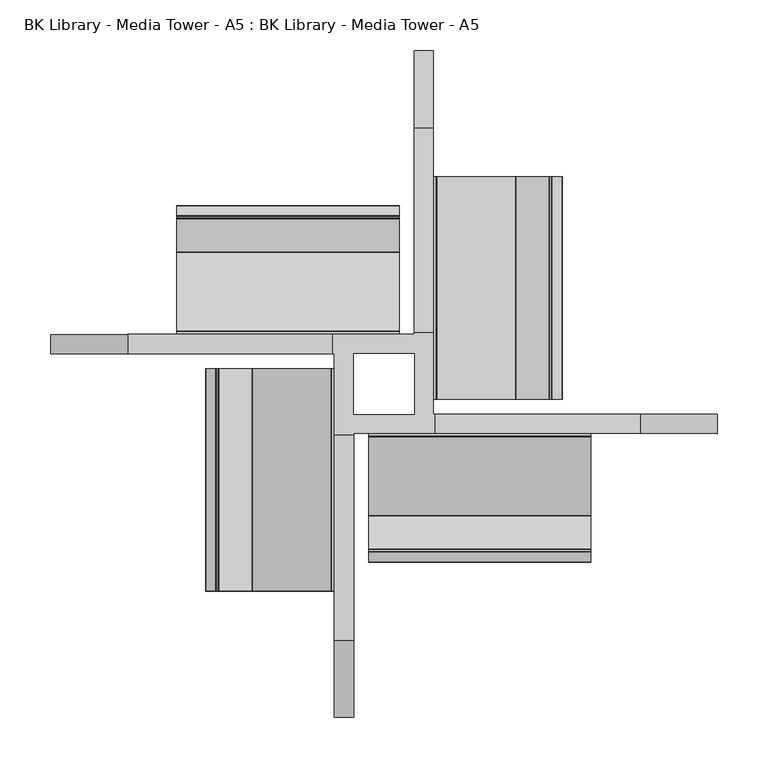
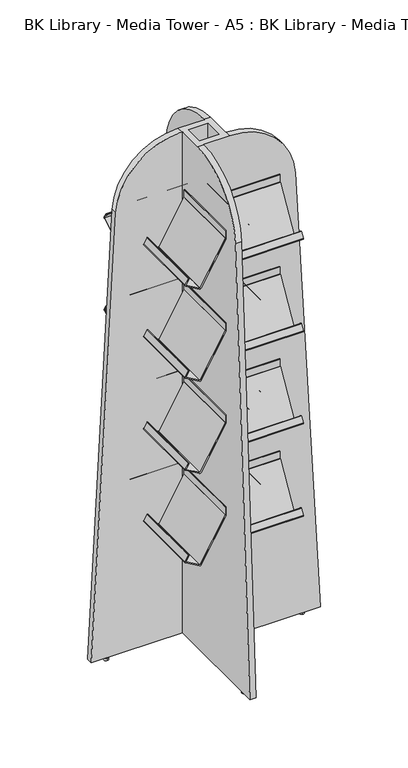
"""IFC4 building model written with IfcOpenShell, lengths in millimetres: furniture geometry, BK Library - Media Tower - A5 : BK Library - Media Tower - A5."""

from ifc_helpers import new_model, si_unit, point, frame, frame_2d, origin, place, context, project, spatial, polyline, circle_curve, trimmed, segment, composite_curve, outline, extrude, source, transform, mapped, element, save
from ifc_brep_helpers import plane_surface, cylinder_surface, advanced_brep


def bk_library_media_tower_a5_bk_library_media_tower_a5_089887bc(model_context):
    return source(origin(), model_context, "Body", "SolidModel", [
        advanced_brep(
        [(30.0, 50.6069829, 1687.4116211), (30.0, 253.7385228, 1494.7718472), (30.0, 330.0, 57.4116211), (30.0, 49.0, 57.4116211), (30.0, 49.0, 1687.4116211), (30.0, -30.0, 1687.4116211), (30.0, 30.0, 1687.4116211), (30.0, 30.0, 57.4116211), (30.0, -30.0, 57.4116211), (49.0, -30.0, 57.4116211), (49.0, 330.0, 57.4116211), (49.0, 253.7385228, 1494.7718472), (49.0, 50.6069829, 1687.4116211), (49.0, -30.0, 1687.4116211), (330.0, -30.0, 57.4116211), (330.0, -49.0, 57.4116211), (-30.0, -49.0, 57.4116211), (-30.0, -330.0, 57.4116211), (-49.0, -330.0, 57.4116211), (-49.0, 30.0, 57.4116211), (-330.0, 30.0, 57.4116211), (-330.0, 49.0, 57.4116211), (-30.0, 30.0, 57.4116211), (-30.0, -30.0, 57.4116211), (-50.6069829, 49.0, 1687.4116211), (-50.6069829, 30.0, 1687.4116211), (-49.0, 30.0, 1687.4116211), (-49.0, -50.6069829, 1687.4116211), (-30.0, -50.6069829, 1687.4116211), (-30.0, -49.0, 1687.4116211), (50.6069829, -49.0, 1687.4116211), (50.6069829, -30.0, 1687.4116211), (-30.0, -30.0, 1687.4116211), (-30.0, 30.0, 1687.4116211), (-253.7385228, 30.0, 1494.7718472), (-253.7385228, 49.0, 1494.7718472), (-30.0, -253.7385228, 1494.7718472), (-49.0, -253.7385228, 1494.7718472), (253.7385228, -30.0, 1494.7718472), (253.7385228, -49.0, 1494.7718472)],
        [
            (0, 1, circle_curve(frame((30.0, 50.6069829, 1483.994374), z_axis=(-1.0, 0.0, 0.0), x_axis=(0.0, -1.0, 0.0)), 203.4172471)),
            (1, 2),
            (2, 3),
            (3, 4),
            (4, 0),
            (5, 6),
            (6, 7),
            (7, 8),
            (8, 5),
            (9, 10),
            (10, 11),
            (11, 12, circle_curve(frame((49.0, 50.6069829, 1483.994374), z_axis=(1.0, 0.0, 0.0), x_axis=(0.0, -1.0, 0.0)), 203.4172471)),
            (12, 13),
            (13, 9),
            (9, 14),
            (14, 15),
            (15, 16),
            (16, 17),
            (17, 18),
            (18, 19),
            (19, 20),
            (20, 21),
            (21, 3),
            (2, 10),
            (22, 23),
            (23, 8),
            (7, 22),
            (12, 0),
            (4, 24),
            (24, 25),
            (25, 26),
            (26, 27),
            (27, 28),
            (28, 29),
            (29, 30),
            (30, 31),
            (31, 13),
            (5, 32),
            (32, 33),
            (33, 6),
            (1, 11),
            (33, 22),
            (25, 34, circle_curve(frame((-50.6069829, 30.0, 1483.994374), z_axis=(0.0, -1.0, 0.0), x_axis=(1.0, 0.0, 0.0)), 203.4172471)),
            (34, 20),
            (19, 26),
            (21, 35),
            (35, 24, circle_curve(frame((-50.6069829, 49.0, 1483.994374), z_axis=(0.0, 1.0, 0.0), x_axis=(1.0, 0.0, 0.0)), 203.4172471)),
            (34, 35),
            (32, 23),
            (28, 36, circle_curve(frame((-30.0, -50.6069829, 1483.994374), z_axis=(1.0, 0.0, 0.0), x_axis=(0.0, 1.0, 0.0)), 203.4172471)),
            (36, 17),
            (16, 29),
            (18, 37),
            (37, 27, circle_curve(frame((-49.0, -50.6069829, 1483.994374), z_axis=(-1.0, 0.0, 0.0), x_axis=(0.0, 1.0, 0.0)), 203.4172471)),
            (36, 37),
            (31, 38, circle_curve(frame((50.6069829, -30.0, 1483.994374), z_axis=(0.0, 1.0, 0.0), x_axis=(-1.0, 0.0, 0.0)), 203.4172471)),
            (38, 14),
            (15, 39),
            (39, 30, circle_curve(frame((50.6069829, -49.0, 1483.994374), z_axis=(0.0, -1.0, 0.0), x_axis=(-1.0, 0.0, 0.0)), 203.4172471)),
            (38, 39),
        ],
        [
            plane_surface(frame((30.0, -30.0, 1048.4828092), z_axis=(-1.0, 0.0, 0.0), x_axis=(0.0, 0.0, 1.0))),
            plane_surface(frame((49.0, -30.0, 1048.4828092), z_axis=(1.0, 0.0, 0.0), x_axis=(0.0, 0.0, -1.0))),
            plane_surface(frame((30.0, 330.0, 57.4116211), z_axis=(0.0, 0.0, -1.0), x_axis=(1.0, 0.0, 0.0))),
            plane_surface(frame((30.0, -30.0, 1687.4116211), z_axis=(0.0, 0.0, 1.0), x_axis=(1.0, 0.0, 0.0))),
            plane_surface(frame((30.0, 253.7385228, 1494.7718472), z_axis=(0.0, 0.9985954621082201, 0.052982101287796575), x_axis=(1.0, 0.0, 0.0))),
            cylinder_surface(frame((49.0, 50.6069829, 1483.994374), z_axis=(-1.0, 0.0, 0.0), x_axis=(0.0, -1.0, 0.0)), 203.4172471),
            plane_surface(frame((30.0, 30.0, 1048.4828092), z_axis=(0.0, -1.0, 0.0), x_axis=(0.0, 0.0, 1.0))),
            plane_surface(frame((30.0, 49.0, 1048.4828092), z_axis=(0.0, 1.0, 0.0), x_axis=(0.0, 0.0, -1.0))),
            plane_surface(frame((-253.7385228, 30.0, 1494.7718472), z_axis=(-0.9985954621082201, 0.0, 0.052982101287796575), x_axis=(0.0, 1.0, 0.0))),
            cylinder_surface(frame((-50.6069829, 49.0, 1483.994374), z_axis=(0.0, -1.0, 0.0), x_axis=(1.0, 0.0, 0.0)), 203.4172471),
            plane_surface(frame((-30.0, 30.0, 1048.4828092), z_axis=(1.0, 0.0, 0.0), x_axis=(0.0, 0.0, 1.0))),
            plane_surface(frame((-49.0, 30.0, 1048.4828092), z_axis=(-1.0, 0.0, 0.0), x_axis=(0.0, 0.0, -1.0))),
            plane_surface(frame((-30.0, -253.7385228, 1494.7718472), z_axis=(0.0, -0.9985954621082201, 0.052982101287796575), x_axis=(-1.0, 0.0, 0.0))),
            cylinder_surface(frame((-49.0, -50.6069829, 1483.994374), z_axis=(1.0, 0.0, 0.0), x_axis=(0.0, 1.0, 0.0)), 203.4172471),
            plane_surface(frame((-30.0, -30.0, 1048.4828092), z_axis=(0.0, 1.0, 0.0), x_axis=(0.0, 0.0, 1.0))),
            plane_surface(frame((-30.0, -49.0, 1048.4828092), z_axis=(0.0, -1.0, 0.0), x_axis=(0.0, 0.0, -1.0))),
            plane_surface(frame((253.7385228, -30.0, 1494.7718472), z_axis=(0.9985954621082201, 0.0, 0.052982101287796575), x_axis=(0.0, -1.0, 0.0))),
            cylinder_surface(frame((50.6069829, -49.0, 1483.994374), z_axis=(0.0, 1.0, 0.0), x_axis=(-1.0, 0.0, 0.0)), 203.4172471),
        ],
        [
            (0, [[1, 2, 3, 4, 5]]),
            (0, [[6, 7, 8, 9]]),
            (1, [[10, 11, 12, 13, 14]]),
            (2, [[-10, 15, 16, 17, 18, 19, 20, 21, 22, 23, -3, 24], [25, 26, -8, 27]]),
            (3, [[-13, 28, -5, 29, 30, 31, 32, 33, 34, 35, 36, 37], [-6, 38, 39, 40]]),
            (4, [[-2, 41, -11, -24]]),
            (5, [[-1, -28, -12, -41]]),
            (6, [[-7, -40, 42, -27]]),
            (6, [[43, 44, -21, 45, -31]]),
            (7, [[-23, 46, 47, -29, -4]]),
            (8, [[-44, 48, -46, -22]]),
            (9, [[-43, -30, -47, -48]]),
            (10, [[-42, -39, 49, -25]]),
            (10, [[50, 51, -18, 52, -34]]),
            (11, [[-20, 53, 54, -32, -45]]),
            (12, [[-51, 55, -53, -19]]),
            (13, [[-50, -33, -54, -55]]),
            (14, [[-26, -49, -38, -9]]),
            (14, [[56, 57, -15, -14, -37]]),
            (15, [[-17, 58, 59, -35, -52]]),
            (16, [[-57, 60, -58, -16]]),
            (17, [[-56, -36, -59, -60]]),
        ],
    ),
        extrude(outline(composite_curve([segment(trimmed(circle_curve(frame_2d((280.0, -37.5)), 6.9282032), [point((280.0, -44.4282032))], [point((280.0, -30.5717968))], False, "CARTESIAN"), True, "CONTINUOUS"), segment(trimmed(circle_curve(frame_2d((280.0, -37.5)), 6.9282032), [point((280.0, -30.5717968))], [point((280.0, -44.4282032))], False, "CARTESIAN"), True, "CONTINUOUS")], self_intersect=False)), frame((0.0, 0.0, 47.6778831), z_axis=(0.0, 0.0, 1.0), x_axis=(1.0, 0.0, 0.0)), (0.0, 0.0, 1.0), 7.7337379),
        extrude(outline(composite_curve([segment(trimmed(circle_curve(frame_2d((37.5, 280.0)), 6.9282032), [point((44.4282032, 280.0))], [point((30.5717968, 280.0))], False, "CARTESIAN"), True, "CONTINUOUS"), segment(trimmed(circle_curve(frame_2d((37.5, 280.0)), 6.9282032), [point((30.5717968, 280.0))], [point((44.4282032, 280.0))], False, "CARTESIAN"), True, "CONTINUOUS")], self_intersect=False)), frame((0.0, 0.0, 47.6778831), z_axis=(0.0, 0.0, 1.0), x_axis=(1.0, 0.0, 0.0)), (0.0, 0.0, 1.0), 7.7337379),
        extrude(outline(composite_curve([segment(trimmed(circle_curve(frame_2d((-280.0, 37.5)), 6.9282032), [point((-280.0, 44.4282032))], [point((-280.0, 30.5717968))], False, "CARTESIAN"), True, "CONTINUOUS"), segment(trimmed(circle_curve(frame_2d((-280.0, 37.5)), 6.9282032), [point((-280.0, 30.5717968))], [point((-280.0, 44.4282032))], False, "CARTESIAN"), True, "CONTINUOUS")], self_intersect=False)), frame((0.0, 0.0, 47.6778831), z_axis=(0.0, 0.0, 1.0), x_axis=(1.0, 0.0, 0.0)), (0.0, 0.0, 1.0), 7.7337379),
        extrude(outline(composite_curve([segment(trimmed(circle_curve(frame_2d((-37.5, -280.0)), 6.9282032), [point((-44.4282032, -280.0))], [point((-30.5717968, -280.0))], False, "CARTESIAN"), True, "CONTINUOUS"), segment(trimmed(circle_curve(frame_2d((-37.5, -280.0)), 6.9282032), [point((-30.5717968, -280.0))], [point((-44.4282032, -280.0))], False, "CARTESIAN"), True, "CONTINUOUS")], self_intersect=False)), frame((0.0, 0.0, 47.6778831), z_axis=(0.0, 0.0, 1.0), x_axis=(1.0, 0.0, 0.0)), (0.0, 0.0, 1.0), 7.7337379),
        extrude(outline(composite_curve([segment(trimmed(circle_curve(frame_2d((130.0980762, 449.4456327)), 3.0), [point((131.5980762, 446.8475565))], [point((127.5, 447.9456327))], False, "CARTESIAN"), True, "CONTINUOUS"), segment(polyline([(127.5, 447.9456327), (49.0, 583.9116211), (49.0, 605.9116211), (39.0, 605.9116211)]), True, "CONTINUOUS"), segment(trimmed(circle_curve(frame_2d((39.0, 608.9116211)), 3.0), [point((39.0, 605.9116211))], [point((36.0, 608.9116211))], False, "CARTESIAN"), True, "CONTINUOUS"), segment(polyline([(36.0, 608.9116211), (36.0, 621.9116211), (39.0, 621.9116211), (39.0, 608.9116211), (51.5, 608.9116211)]), True, "CONTINUOUS"), segment(trimmed(circle_curve(frame_2d((51.5, 608.4116211)), 0.5), [point((51.5, 608.9116211))], [point((52.0, 608.4116211))], False, "CARTESIAN"), True, "CONTINUOUS"), segment(polyline([(52.0, 608.4116211), (52.0, 585.1173925)]), True, "CONTINUOUS"), segment(trimmed(circle_curve(frame_2d((53.5, 585.1173925)), 1.5), [point((52.0, 585.1173925))], [point((52.2009619, 584.3673925))], True, "CARTESIAN"), True, "CONTINUOUS"), segment(polyline([(52.2009619, 584.3673925), (129.8480762, 449.8786454)]), True, "CONTINUOUS"), segment(trimmed(circle_curve(frame_2d((130.2810889, 450.1286454)), 0.5), [point((129.8480762, 449.8786454))], [point((130.5310889, 449.6956327))], True, "CARTESIAN"), True, "CONTINUOUS"), segment(polyline([(130.5310889, 449.6956327), (173.3993464, 474.4456327), (163.6493464, 491.3331281)]), True, "CONTINUOUS"), segment(trimmed(circle_curve(frame_2d((164.0823591, 491.5831281)), 0.5), [point((163.6493464, 491.3331281))], [point((163.8323591, 492.0161408))], False, "CARTESIAN"), True, "CONTINUOUS"), segment(polyline([(163.8323591, 492.0161408), (165.5644099, 493.0161408)]), True, "CONTINUOUS"), segment(trimmed(circle_curve(frame_2d((165.8144099, 492.5831281)), 0.5), [point((165.5644099, 493.0161408))], [point((166.2474226, 492.8331281))], False, "CARTESIAN"), True, "CONTINUOUS"), segment(polyline([(166.2474226, 492.8331281), (175.9974226, 475.9456327)]), True, "CONTINUOUS"), segment(trimmed(circle_curve(frame_2d((173.3993464, 474.4456327)), 3.0), [point((175.9974226, 475.9456327))], [point((174.8993464, 471.8475565))], False, "CARTESIAN"), True, "CONTINUOUS"), segment(polyline([(174.8993464, 471.8475565), (131.5980762, 446.8475565)]), True, "CONTINUOUS")], self_intersect=False)), frame((-205.0, 0.0, 0.0), z_axis=(1.0, 0.0, 0.0), x_axis=(0.0, 1.0, 0.0)), (0.0, 0.0, 1.0), 220.0),
        extrude(outline(composite_curve([segment(trimmed(circle_curve(frame_2d((130.0980762, 749.4456327)), 3.0), [point((131.5980762, 746.8475565))], [point((127.5, 747.9456327))], False, "CARTESIAN"), True, "CONTINUOUS"), segment(polyline([(127.5, 747.9456327), (49.0, 883.9116211), (49.0, 905.9116211), (39.0, 905.9116211)]), True, "CONTINUOUS"), segment(trimmed(circle_curve(frame_2d((39.0, 908.9116211)), 3.0), [point((39.0, 905.9116211))], [point((36.0, 908.9116211))], False, "CARTESIAN"), True, "CONTINUOUS"), segment(polyline([(36.0, 908.9116211), (36.0, 921.9116211), (39.0, 921.9116211), (39.0, 908.9116211), (51.5, 908.9116211)]), True, "CONTINUOUS"), segment(trimmed(circle_curve(frame_2d((51.5, 908.4116211)), 0.5), [point((51.5, 908.9116211))], [point((52.0, 908.4116211))], False, "CARTESIAN"), True, "CONTINUOUS"), segment(polyline([(52.0, 908.4116211), (52.0, 885.1173925)]), True, "CONTINUOUS"), segment(trimmed(circle_curve(frame_2d((53.5, 885.1173925)), 1.5), [point((52.0, 885.1173925))], [point((52.2009619, 884.3673925))], True, "CARTESIAN"), True, "CONTINUOUS"), segment(polyline([(52.2009619, 884.3673925), (129.8480762, 749.8786454)]), True, "CONTINUOUS"), segment(trimmed(circle_curve(frame_2d((130.2810889, 750.1286454)), 0.5), [point((129.8480762, 749.8786454))], [point((130.5310889, 749.6956327))], True, "CARTESIAN"), True, "CONTINUOUS"), segment(polyline([(130.5310889, 749.6956327), (173.3993464, 774.4456327), (163.6493464, 791.3331281)]), True, "CONTINUOUS"), segment(trimmed(circle_curve(frame_2d((164.0823591, 791.5831281)), 0.5), [point((163.6493464, 791.3331281))], [point((163.8323591, 792.0161408))], False, "CARTESIAN"), True, "CONTINUOUS"), segment(polyline([(163.8323591, 792.0161408), (165.5644099, 793.0161408)]), True, "CONTINUOUS"), segment(trimmed(circle_curve(frame_2d((165.8144099, 792.5831281)), 0.5), [point((165.5644099, 793.0161408))], [point((166.2474226, 792.8331281))], False, "CARTESIAN"), True, "CONTINUOUS"), segment(polyline([(166.2474226, 792.8331281), (175.9974226, 775.9456327)]), True, "CONTINUOUS"), segment(trimmed(circle_curve(frame_2d((173.3993464, 774.4456327)), 3.0), [point((175.9974226, 775.9456327))], [point((174.8993464, 771.8475565))], False, "CARTESIAN"), True, "CONTINUOUS"), segment(polyline([(174.8993464, 771.8475565), (131.5980762, 746.8475565)]), True, "CONTINUOUS")], self_intersect=False)), frame((-205.0, 0.0, 0.0), z_axis=(1.0, 0.0, 0.0), x_axis=(0.0, 1.0, 0.0)), (0.0, 0.0, 1.0), 220.0),
        extrude(outline(composite_curve([segment(trimmed(circle_curve(frame_2d((130.0980762, 1049.4456327)), 3.0), [point((131.5980762, 1046.8475565))], [point((127.5, 1047.9456327))], False, "CARTESIAN"), True, "CONTINUOUS"), segment(polyline([(127.5, 1047.9456327), (49.0, 1183.9116211), (49.0, 1205.9116211), (39.0, 1205.9116211)]), True, "CONTINUOUS"), segment(trimmed(circle_curve(frame_2d((39.0, 1208.9116211)), 3.0), [point((39.0, 1205.9116211))], [point((36.0, 1208.9116211))], False, "CARTESIAN"), True, "CONTINUOUS"), segment(polyline([(36.0, 1208.9116211), (36.0, 1221.9116211), (39.0, 1221.9116211), (39.0, 1208.9116211), (51.5, 1208.9116211)]), True, "CONTINUOUS"), segment(trimmed(circle_curve(frame_2d((51.5, 1208.4116211)), 0.5), [point((51.5, 1208.9116211))], [point((52.0, 1208.4116211))], False, "CARTESIAN"), True, "CONTINUOUS"), segment(polyline([(52.0, 1208.4116211), (52.0, 1185.1173925)]), True, "CONTINUOUS"), segment(trimmed(circle_curve(frame_2d((53.5, 1185.1173925)), 1.5), [point((52.0, 1185.1173925))], [point((52.2009619, 1184.3673925))], True, "CARTESIAN"), True, "CONTINUOUS"), segment(polyline([(52.2009619, 1184.3673925), (129.8480762, 1049.8786454)]), True, "CONTINUOUS"), segment(trimmed(circle_curve(frame_2d((130.2810889, 1050.1286454)), 0.5), [point((129.8480762, 1049.8786454))], [point((130.5310889, 1049.6956327))], True, "CARTESIAN"), True, "CONTINUOUS"), segment(polyline([(130.5310889, 1049.6956327), (173.3993464, 1074.4456327), (163.6493464, 1091.3331281)]), True, "CONTINUOUS"), segment(trimmed(circle_curve(frame_2d((164.0823591, 1091.5831281)), 0.5), [point((163.6493464, 1091.3331281))], [point((163.8323591, 1092.0161408))], False, "CARTESIAN"), True, "CONTINUOUS"), segment(polyline([(163.8323591, 1092.0161408), (165.5644099, 1093.0161408)]), True, "CONTINUOUS"), segment(trimmed(circle_curve(frame_2d((165.8144099, 1092.5831281)), 0.5), [point((165.5644099, 1093.0161408))], [point((166.2474226, 1092.8331281))], False, "CARTESIAN"), True, "CONTINUOUS"), segment(polyline([(166.2474226, 1092.8331281), (175.9974226, 1075.9456327)]), True, "CONTINUOUS"), segment(trimmed(circle_curve(frame_2d((173.3993464, 1074.4456327)), 3.0), [point((175.9974226, 1075.9456327))], [point((174.8993464, 1071.8475565))], False, "CARTESIAN"), True, "CONTINUOUS"), segment(polyline([(174.8993464, 1071.8475565), (131.5980762, 1046.8475565)]), True, "CONTINUOUS")], self_intersect=False)), frame((-205.0, 0.0, 0.0), z_axis=(1.0, 0.0, 0.0), x_axis=(0.0, 1.0, 0.0)), (0.0, 0.0, 1.0), 220.0),
        extrude(outline(composite_curve([segment(trimmed(circle_curve(frame_2d((130.0980762, 1349.4456327)), 3.0), [point((131.5980762, 1346.8475565))], [point((127.5, 1347.9456327))], False, "CARTESIAN"), True, "CONTINUOUS"), segment(polyline([(127.5, 1347.9456327), (49.0, 1483.9116211), (49.0, 1505.9116211), (39.0, 1505.9116211)]), True, "CONTINUOUS"), segment(trimmed(circle_curve(frame_2d((39.0, 1508.9116211)), 3.0), [point((39.0, 1505.9116211))], [point((36.0, 1508.9116211))], False, "CARTESIAN"), True, "CONTINUOUS"), segment(polyline([(36.0, 1508.9116211), (36.0, 1521.9116211), (39.0, 1521.9116211), (39.0, 1508.9116211), (51.5, 1508.9116211)]), True, "CONTINUOUS"), segment(trimmed(circle_curve(frame_2d((51.5, 1508.4116211)), 0.5), [point((51.5, 1508.9116211))], [point((52.0, 1508.4116211))], False, "CARTESIAN"), True, "CONTINUOUS"), segment(polyline([(52.0, 1508.4116211), (52.0, 1485.1173925)]), True, "CONTINUOUS"), segment(trimmed(circle_curve(frame_2d((53.5, 1485.1173925)), 1.5), [point((52.0, 1485.1173925))], [point((52.2009619, 1484.3673925))], True, "CARTESIAN"), True, "CONTINUOUS"), segment(polyline([(52.2009619, 1484.3673925), (129.8480762, 1349.8786454)]), True, "CONTINUOUS"), segment(trimmed(circle_curve(frame_2d((130.2810889, 1350.1286454)), 0.5), [point((129.8480762, 1349.8786454))], [point((130.5310889, 1349.6956327))], True, "CARTESIAN"), True, "CONTINUOUS"), segment(polyline([(130.5310889, 1349.6956327), (173.3993464, 1374.4456327), (163.6493464, 1391.3331281)]), True, "CONTINUOUS"), segment(trimmed(circle_curve(frame_2d((164.0823591, 1391.5831281)), 0.5), [point((163.6493464, 1391.3331281))], [point((163.8323591, 1392.0161408))], False, "CARTESIAN"), True, "CONTINUOUS"), segment(polyline([(163.8323591, 1392.0161408), (165.5644099, 1393.0161408)]), True, "CONTINUOUS"), segment(trimmed(circle_curve(frame_2d((165.8144099, 1392.5831281)), 0.5), [point((165.5644099, 1393.0161408))], [point((166.2474226, 1392.8331281))], False, "CARTESIAN"), True, "CONTINUOUS"), segment(polyline([(166.2474226, 1392.8331281), (175.9974226, 1375.9456327)]), True, "CONTINUOUS"), segment(trimmed(circle_curve(frame_2d((173.3993464, 1374.4456327)), 3.0), [point((175.9974226, 1375.9456327))], [point((174.8993464, 1371.8475565))], False, "CARTESIAN"), True, "CONTINUOUS"), segment(polyline([(174.8993464, 1371.8475565), (131.5980762, 1346.8475565)]), True, "CONTINUOUS")], self_intersect=False)), frame((-205.0, 0.0, 0.0), z_axis=(1.0, 0.0, 0.0), x_axis=(0.0, 1.0, 0.0)), (0.0, 0.0, 1.0), 220.0),
        extrude(outline(composite_curve([segment(polyline([(446.8475565, 131.5980762), (471.8475565, 174.8993464)]), True, "CONTINUOUS"), segment(trimmed(circle_curve(frame_2d((474.4456327, 173.3993464)), 3.0), [point((471.8475565, 174.8993464))], [point((475.9456327, 175.9974226))], False, "CARTESIAN"), True, "CONTINUOUS"), segment(polyline([(475.9456327, 175.9974226), (492.8331281, 166.2474226)]), True, "CONTINUOUS"), segment(trimmed(circle_curve(frame_2d((492.5831281, 165.8144099)), 0.5), [point((492.8331281, 166.2474226))], [point((493.0161408, 165.5644099))], False, "CARTESIAN"), True, "CONTINUOUS"), segment(polyline([(493.0161408, 165.5644099), (492.0161408, 163.8323591)]), True, "CONTINUOUS"), segment(trimmed(circle_curve(frame_2d((491.5831281, 164.0823591)), 0.5), [point((492.0161408, 163.8323591))], [point((491.3331281, 163.6493464))], False, "CARTESIAN"), True, "CONTINUOUS"), segment(polyline([(491.3331281, 163.6493464), (474.4456327, 173.3993464), (449.6956327, 130.5310889)]), True, "CONTINUOUS"), segment(trimmed(circle_curve(frame_2d((450.1286454, 130.2810889)), 0.5), [point((449.6956327, 130.5310889))], [point((449.8786454, 129.8480762))], True, "CARTESIAN"), True, "CONTINUOUS"), segment(polyline([(449.8786454, 129.8480762), (584.3673925, 52.2009619)]), True, "CONTINUOUS"), segment(trimmed(circle_curve(frame_2d((585.1173925, 53.5)), 1.5), [point((584.3673925, 52.2009619))], [point((585.1173925, 52.0))], True, "CARTESIAN"), True, "CONTINUOUS"), segment(polyline([(585.1173925, 52.0), (608.4116211, 52.0)]), True, "CONTINUOUS"), segment(trimmed(circle_curve(frame_2d((608.4116211, 51.5)), 0.5), [point((608.4116211, 52.0))], [point((608.9116211, 51.5))], False, "CARTESIAN"), True, "CONTINUOUS"), segment(polyline([(608.9116211, 51.5), (608.9116211, 39.0), (621.9116211, 39.0), (621.9116211, 36.0), (608.9116211, 36.0)]), True, "CONTINUOUS"), segment(trimmed(circle_curve(frame_2d((608.9116211, 39.0)), 3.0), [point((608.9116211, 36.0))], [point((605.9116211, 39.0))], False, "CARTESIAN"), True, "CONTINUOUS"), segment(polyline([(605.9116211, 39.0), (605.9116211, 49.0), (583.9116211, 49.0), (447.9456327, 127.5)]), True, "CONTINUOUS"), segment(trimmed(circle_curve(frame_2d((449.4456327, 130.0980762)), 3.0), [point((447.9456327, 127.5))], [point((446.8475565, 131.5980762))], False, "CARTESIAN"), True, "CONTINUOUS")], self_intersect=False)), frame((0.0, -15.0, 0.0), z_axis=(0.0, 1.0, 0.0), x_axis=(0.0, 0.0, 1.0)), (0.0, 0.0, 1.0), 220.0),
        extrude(outline(composite_curve([segment(polyline([(746.8475565, 131.5980762), (771.8475565, 174.8993464)]), True, "CONTINUOUS"), segment(trimmed(circle_curve(frame_2d((774.4456327, 173.3993464)), 3.0), [point((771.8475565, 174.8993464))], [point((775.9456327, 175.9974226))], False, "CARTESIAN"), True, "CONTINUOUS"), segment(polyline([(775.9456327, 175.9974226), (792.8331281, 166.2474226)]), True, "CONTINUOUS"), segment(trimmed(circle_curve(frame_2d((792.5831281, 165.8144099)), 0.5), [point((792.8331281, 166.2474226))], [point((793.0161408, 165.5644099))], False, "CARTESIAN"), True, "CONTINUOUS"), segment(polyline([(793.0161408, 165.5644099), (792.0161408, 163.8323591)]), True, "CONTINUOUS"), segment(trimmed(circle_curve(frame_2d((791.5831281, 164.0823591)), 0.5), [point((792.0161408, 163.8323591))], [point((791.3331281, 163.6493464))], False, "CARTESIAN"), True, "CONTINUOUS"), segment(polyline([(791.3331281, 163.6493464), (774.4456327, 173.3993464), (749.6956327, 130.5310889)]), True, "CONTINUOUS"), segment(trimmed(circle_curve(frame_2d((750.1286454, 130.2810889)), 0.5), [point((749.6956327, 130.5310889))], [point((749.8786454, 129.8480762))], True, "CARTESIAN"), True, "CONTINUOUS"), segment(polyline([(749.8786454, 129.8480762), (884.3673925, 52.2009619)]), True, "CONTINUOUS"), segment(trimmed(circle_curve(frame_2d((885.1173925, 53.5)), 1.5), [point((884.3673925, 52.2009619))], [point((885.1173925, 52.0))], True, "CARTESIAN"), True, "CONTINUOUS"), segment(polyline([(885.1173925, 52.0), (908.4116211, 52.0)]), True, "CONTINUOUS"), segment(trimmed(circle_curve(frame_2d((908.4116211, 51.5)), 0.5), [point((908.4116211, 52.0))], [point((908.9116211, 51.5))], False, "CARTESIAN"), True, "CONTINUOUS"), segment(polyline([(908.9116211, 51.5), (908.9116211, 39.0), (921.9116211, 39.0), (921.9116211, 36.0), (908.9116211, 36.0)]), True, "CONTINUOUS"), segment(trimmed(circle_curve(frame_2d((908.9116211, 39.0)), 3.0), [point((908.9116211, 36.0))], [point((905.9116211, 39.0))], False, "CARTESIAN"), True, "CONTINUOUS"), segment(polyline([(905.9116211, 39.0), (905.9116211, 49.0), (883.9116211, 49.0), (747.9456327, 127.5)]), True, "CONTINUOUS"), segment(trimmed(circle_curve(frame_2d((749.4456327, 130.0980762)), 3.0), [point((747.9456327, 127.5))], [point((746.8475565, 131.5980762))], False, "CARTESIAN"), True, "CONTINUOUS")], self_intersect=False)), frame((0.0, -15.0, 0.0), z_axis=(0.0, 1.0, 0.0), x_axis=(0.0, 0.0, 1.0)), (0.0, 0.0, 1.0), 220.0),
        extrude(outline(composite_curve([segment(polyline([(1046.8475565, 131.5980762), (1071.8475565, 174.8993464)]), True, "CONTINUOUS"), segment(trimmed(circle_curve(frame_2d((1074.4456327, 173.3993464)), 3.0), [point((1071.8475565, 174.8993464))], [point((1075.9456327, 175.9974226))], False, "CARTESIAN"), True, "CONTINUOUS"), segment(polyline([(1075.9456327, 175.9974226), (1092.8331281, 166.2474226)]), True, "CONTINUOUS"), segment(trimmed(circle_curve(frame_2d((1092.5831281, 165.8144099)), 0.5), [point((1092.8331281, 166.2474226))], [point((1093.0161408, 165.5644099))], False, "CARTESIAN"), True, "CONTINUOUS"), segment(polyline([(1093.0161408, 165.5644099), (1092.0161408, 163.8323591)]), True, "CONTINUOUS"), segment(trimmed(circle_curve(frame_2d((1091.5831281, 164.0823591)), 0.5), [point((1092.0161408, 163.8323591))], [point((1091.3331281, 163.6493464))], False, "CARTESIAN"), True, "CONTINUOUS"), segment(polyline([(1091.3331281, 163.6493464), (1074.4456327, 173.3993464), (1049.6956327, 130.5310889)]), True, "CONTINUOUS"), segment(trimmed(circle_curve(frame_2d((1050.1286454, 130.2810889)), 0.5), [point((1049.6956327, 130.5310889))], [point((1049.8786454, 129.8480762))], True, "CARTESIAN"), True, "CONTINUOUS"), segment(polyline([(1049.8786454, 129.8480762), (1184.3673925, 52.2009619)]), True, "CONTINUOUS"), segment(trimmed(circle_curve(frame_2d((1185.1173925, 53.5)), 1.5), [point((1184.3673925, 52.2009619))], [point((1185.1173925, 52.0))], True, "CARTESIAN"), True, "CONTINUOUS"), segment(polyline([(1185.1173925, 52.0), (1208.4116211, 52.0)]), True, "CONTINUOUS"), segment(trimmed(circle_curve(frame_2d((1208.4116211, 51.5)), 0.5), [point((1208.4116211, 52.0))], [point((1208.9116211, 51.5))], False, "CARTESIAN"), True, "CONTINUOUS"), segment(polyline([(1208.9116211, 51.5), (1208.9116211, 39.0), (1221.9116211, 39.0), (1221.9116211, 36.0), (1208.9116211, 36.0)]), True, "CONTINUOUS"), segment(trimmed(circle_curve(frame_2d((1208.9116211, 39.0)), 3.0), [point((1208.9116211, 36.0))], [point((1205.9116211, 39.0))], False, "CARTESIAN"), True, "CONTINUOUS"), segment(polyline([(1205.9116211, 39.0), (1205.9116211, 49.0), (1183.9116211, 49.0), (1047.9456327, 127.5)]), True, "CONTINUOUS"), segment(trimmed(circle_curve(frame_2d((1049.4456327, 130.0980762)), 3.0), [point((1047.9456327, 127.5))], [point((1046.8475565, 131.5980762))], False, "CARTESIAN"), True, "CONTINUOUS")], self_intersect=False)), frame((0.0, -15.0, 0.0), z_axis=(0.0, 1.0, 0.0), x_axis=(0.0, 0.0, 1.0)), (0.0, 0.0, 1.0), 220.0),
        extrude(outline(composite_curve([segment(polyline([(1346.8475565, 131.5980762), (1371.8475565, 174.8993464)]), True, "CONTINUOUS"), segment(trimmed(circle_curve(frame_2d((1374.4456327, 173.3993464)), 3.0), [point((1371.8475565, 174.8993464))], [point((1375.9456327, 175.9974226))], False, "CARTESIAN"), True, "CONTINUOUS"), segment(polyline([(1375.9456327, 175.9974226), (1392.8331281, 166.2474226)]), True, "CONTINUOUS"), segment(trimmed(circle_curve(frame_2d((1392.5831281, 165.8144099)), 0.5), [point((1392.8331281, 166.2474226))], [point((1393.0161408, 165.5644099))], False, "CARTESIAN"), True, "CONTINUOUS"), segment(polyline([(1393.0161408, 165.5644099), (1392.0161408, 163.8323591)]), True, "CONTINUOUS"), segment(trimmed(circle_curve(frame_2d((1391.5831281, 164.0823591)), 0.5), [point((1392.0161408, 163.8323591))], [point((1391.3331281, 163.6493464))], False, "CARTESIAN"), True, "CONTINUOUS"), segment(polyline([(1391.3331281, 163.6493464), (1374.4456327, 173.3993464), (1349.6956327, 130.5310889)]), True, "CONTINUOUS"), segment(trimmed(circle_curve(frame_2d((1350.1286454, 130.2810889)), 0.5), [point((1349.6956327, 130.5310889))], [point((1349.8786454, 129.8480762))], True, "CARTESIAN"), True, "CONTINUOUS"), segment(polyline([(1349.8786454, 129.8480762), (1484.3673925, 52.2009619)]), True, "CONTINUOUS"), segment(trimmed(circle_curve(frame_2d((1485.1173925, 53.5)), 1.5), [point((1484.3673925, 52.2009619))], [point((1485.1173925, 52.0))], True, "CARTESIAN"), True, "CONTINUOUS"), segment(polyline([(1485.1173925, 52.0), (1508.4116211, 52.0)]), True, "CONTINUOUS"), segment(trimmed(circle_curve(frame_2d((1508.4116211, 51.5)), 0.5), [point((1508.4116211, 52.0))], [point((1508.9116211, 51.5))], False, "CARTESIAN"), True, "CONTINUOUS"), segment(polyline([(1508.9116211, 51.5), (1508.9116211, 39.0), (1521.9116211, 39.0), (1521.9116211, 36.0), (1508.9116211, 36.0)]), True, "CONTINUOUS"), segment(trimmed(circle_curve(frame_2d((1508.9116211, 39.0)), 3.0), [point((1508.9116211, 36.0))], [point((1505.9116211, 39.0))], False, "CARTESIAN"), True, "CONTINUOUS"), segment(polyline([(1505.9116211, 39.0), (1505.9116211, 49.0), (1483.9116211, 49.0), (1347.9456327, 127.5)]), True, "CONTINUOUS"), segment(trimmed(circle_curve(frame_2d((1349.4456327, 130.0980762)), 3.0), [point((1347.9456327, 127.5))], [point((1346.8475565, 131.5980762))], False, "CARTESIAN"), True, "CONTINUOUS")], self_intersect=False)), frame((0.0, -15.0, 0.0), z_axis=(0.0, 1.0, 0.0), x_axis=(0.0, 0.0, 1.0)), (0.0, 0.0, 1.0), 220.0),
        extrude(outline(composite_curve([segment(polyline([(-131.5980762, 446.8475565), (-174.8993464, 471.8475565)]), True, "CONTINUOUS"), segment(trimmed(circle_curve(frame_2d((-173.3993464, 474.4456327)), 3.0), [point((-174.8993464, 471.8475565))], [point((-175.9974226, 475.9456327))], False, "CARTESIAN"), True, "CONTINUOUS"), segment(polyline([(-175.9974226, 475.9456327), (-166.2474226, 492.8331281)]), True, "CONTINUOUS"), segment(trimmed(circle_curve(frame_2d((-165.8144099, 492.5831281)), 0.5), [point((-166.2474226, 492.8331281))], [point((-165.5644099, 493.0161408))], False, "CARTESIAN"), True, "CONTINUOUS"), segment(polyline([(-165.5644099, 493.0161408), (-163.8323591, 492.0161408)]), True, "CONTINUOUS"), segment(trimmed(circle_curve(frame_2d((-164.0823591, 491.5831281)), 0.5), [point((-163.8323591, 492.0161408))], [point((-163.6493464, 491.3331281))], False, "CARTESIAN"), True, "CONTINUOUS"), segment(polyline([(-163.6493464, 491.3331281), (-173.3993464, 474.4456327), (-130.5310889, 449.6956327)]), True, "CONTINUOUS"), segment(trimmed(circle_curve(frame_2d((-130.2810889, 450.1286454)), 0.5), [point((-130.5310889, 449.6956327))], [point((-129.8480762, 449.8786454))], True, "CARTESIAN"), True, "CONTINUOUS"), segment(polyline([(-129.8480762, 449.8786454), (-52.2009619, 584.3673925)]), True, "CONTINUOUS"), segment(trimmed(circle_curve(frame_2d((-53.5, 585.1173925)), 1.5), [point((-52.2009619, 584.3673925))], [point((-52.0, 585.1173925))], True, "CARTESIAN"), True, "CONTINUOUS"), segment(polyline([(-52.0, 585.1173925), (-52.0, 608.4116211)]), True, "CONTINUOUS"), segment(trimmed(circle_curve(frame_2d((-51.5, 608.4116211)), 0.5), [point((-52.0, 608.4116211))], [point((-51.5, 608.9116211))], False, "CARTESIAN"), True, "CONTINUOUS"), segment(polyline([(-51.5, 608.9116211), (-39.0, 608.9116211), (-39.0, 621.9116211), (-36.0, 621.9116211), (-36.0, 608.9116211)]), True, "CONTINUOUS"), segment(trimmed(circle_curve(frame_2d((-39.0, 608.9116211)), 3.0), [point((-36.0, 608.9116211))], [point((-39.0, 605.9116211))], False, "CARTESIAN"), True, "CONTINUOUS"), segment(polyline([(-39.0, 605.9116211), (-49.0, 605.9116211), (-49.0, 583.9116211), (-127.5, 447.9456327)]), True, "CONTINUOUS"), segment(trimmed(circle_curve(frame_2d((-130.0980762, 449.4456327)), 3.0), [point((-127.5, 447.9456327))], [point((-131.5980762, 446.8475565))], False, "CARTESIAN"), True, "CONTINUOUS")], self_intersect=False)), frame((-15.0, 0.0, 0.0), z_axis=(1.0, 0.0, 0.0), x_axis=(0.0, 1.0, 0.0)), (0.0, 0.0, 1.0), 220.0),
        extrude(outline(composite_curve([segment(polyline([(-131.5980762, 746.8475565), (-174.8993464, 771.8475565)]), True, "CONTINUOUS"), segment(trimmed(circle_curve(frame_2d((-173.3993464, 774.4456327)), 3.0), [point((-174.8993464, 771.8475565))], [point((-175.9974226, 775.9456327))], False, "CARTESIAN"), True, "CONTINUOUS"), segment(polyline([(-175.9974226, 775.9456327), (-166.2474226, 792.8331281)]), True, "CONTINUOUS"), segment(trimmed(circle_curve(frame_2d((-165.8144099, 792.5831281)), 0.5), [point((-166.2474226, 792.8331281))], [point((-165.5644099, 793.0161408))], False, "CARTESIAN"), True, "CONTINUOUS"), segment(polyline([(-165.5644099, 793.0161408), (-163.8323591, 792.0161408)]), True, "CONTINUOUS"), segment(trimmed(circle_curve(frame_2d((-164.0823591, 791.5831281)), 0.5), [point((-163.8323591, 792.0161408))], [point((-163.6493464, 791.3331281))], False, "CARTESIAN"), True, "CONTINUOUS"), segment(polyline([(-163.6493464, 791.3331281), (-173.3993464, 774.4456327), (-130.5310889, 749.6956327)]), True, "CONTINUOUS"), segment(trimmed(circle_curve(frame_2d((-130.2810889, 750.1286454)), 0.5), [point((-130.5310889, 749.6956327))], [point((-129.8480762, 749.8786454))], True, "CARTESIAN"), True, "CONTINUOUS"), segment(polyline([(-129.8480762, 749.8786454), (-52.2009619, 884.3673925)]), True, "CONTINUOUS"), segment(trimmed(circle_curve(frame_2d((-53.5, 885.1173925)), 1.5), [point((-52.2009619, 884.3673925))], [point((-52.0, 885.1173925))], True, "CARTESIAN"), True, "CONTINUOUS"), segment(polyline([(-52.0, 885.1173925), (-52.0, 908.4116211)]), True, "CONTINUOUS"), segment(trimmed(circle_curve(frame_2d((-51.5, 908.4116211)), 0.5), [point((-52.0, 908.4116211))], [point((-51.5, 908.9116211))], False, "CARTESIAN"), True, "CONTINUOUS"), segment(polyline([(-51.5, 908.9116211), (-39.0, 908.9116211), (-39.0, 921.9116211), (-36.0, 921.9116211), (-36.0, 908.9116211)]), True, "CONTINUOUS"), segment(trimmed(circle_curve(frame_2d((-39.0, 908.9116211)), 3.0), [point((-36.0, 908.9116211))], [point((-39.0, 905.9116211))], False, "CARTESIAN"), True, "CONTINUOUS"), segment(polyline([(-39.0, 905.9116211), (-49.0, 905.9116211), (-49.0, 883.9116211), (-127.5, 747.9456327)]), True, "CONTINUOUS"), segment(trimmed(circle_curve(frame_2d((-130.0980762, 749.4456327)), 3.0), [point((-127.5, 747.9456327))], [point((-131.5980762, 746.8475565))], False, "CARTESIAN"), True, "CONTINUOUS")], self_intersect=False)), frame((-15.0, 0.0, 0.0), z_axis=(1.0, 0.0, 0.0), x_axis=(0.0, 1.0, 0.0)), (0.0, 0.0, 1.0), 220.0),
        extrude(outline(composite_curve([segment(polyline([(-131.5980762, 1046.8475565), (-174.8993464, 1071.8475565)]), True, "CONTINUOUS"), segment(trimmed(circle_curve(frame_2d((-173.3993464, 1074.4456327)), 3.0), [point((-174.8993464, 1071.8475565))], [point((-175.9974226, 1075.9456327))], False, "CARTESIAN"), True, "CONTINUOUS"), segment(polyline([(-175.9974226, 1075.9456327), (-166.2474226, 1092.8331281)]), True, "CONTINUOUS"), segment(trimmed(circle_curve(frame_2d((-165.8144099, 1092.5831281)), 0.5), [point((-166.2474226, 1092.8331281))], [point((-165.5644099, 1093.0161408))], False, "CARTESIAN"), True, "CONTINUOUS"), segment(polyline([(-165.5644099, 1093.0161408), (-163.8323591, 1092.0161408)]), True, "CONTINUOUS"), segment(trimmed(circle_curve(frame_2d((-164.0823591, 1091.5831281)), 0.5), [point((-163.8323591, 1092.0161408))], [point((-163.6493464, 1091.3331281))], False, "CARTESIAN"), True, "CONTINUOUS"), segment(polyline([(-163.6493464, 1091.3331281), (-173.3993464, 1074.4456327), (-130.5310889, 1049.6956327)]), True, "CONTINUOUS"), segment(trimmed(circle_curve(frame_2d((-130.2810889, 1050.1286454)), 0.5), [point((-130.5310889, 1049.6956327))], [point((-129.8480762, 1049.8786454))], True, "CARTESIAN"), True, "CONTINUOUS"), segment(polyline([(-129.8480762, 1049.8786454), (-52.2009619, 1184.3673925)]), True, "CONTINUOUS"), segment(trimmed(circle_curve(frame_2d((-53.5, 1185.1173925)), 1.5), [point((-52.2009619, 1184.3673925))], [point((-52.0, 1185.1173925))], True, "CARTESIAN"), True, "CONTINUOUS"), segment(polyline([(-52.0, 1185.1173925), (-52.0, 1208.4116211)]), True, "CONTINUOUS"), segment(trimmed(circle_curve(frame_2d((-51.5, 1208.4116211)), 0.5), [point((-52.0, 1208.4116211))], [point((-51.5, 1208.9116211))], False, "CARTESIAN"), True, "CONTINUOUS"), segment(polyline([(-51.5, 1208.9116211), (-39.0, 1208.9116211), (-39.0, 1221.9116211), (-36.0, 1221.9116211), (-36.0, 1208.9116211)]), True, "CONTINUOUS"), segment(trimmed(circle_curve(frame_2d((-39.0, 1208.9116211)), 3.0), [point((-36.0, 1208.9116211))], [point((-39.0, 1205.9116211))], False, "CARTESIAN"), True, "CONTINUOUS"), segment(polyline([(-39.0, 1205.9116211), (-49.0, 1205.9116211), (-49.0, 1183.9116211), (-127.5, 1047.9456327)]), True, "CONTINUOUS"), segment(trimmed(circle_curve(frame_2d((-130.0980762, 1049.4456327)), 3.0), [point((-127.5, 1047.9456327))], [point((-131.5980762, 1046.8475565))], False, "CARTESIAN"), True, "CONTINUOUS")], self_intersect=False)), frame((-15.0, 0.0, 0.0), z_axis=(1.0, 0.0, 0.0), x_axis=(0.0, 1.0, 0.0)), (0.0, 0.0, 1.0), 220.0),
        extrude(outline(composite_curve([segment(polyline([(-131.5980762, 1346.8475565), (-174.8993464, 1371.8475565)]), True, "CONTINUOUS"), segment(trimmed(circle_curve(frame_2d((-173.3993464, 1374.4456327)), 3.0), [point((-174.8993464, 1371.8475565))], [point((-175.9974226, 1375.9456327))], False, "CARTESIAN"), True, "CONTINUOUS"), segment(polyline([(-175.9974226, 1375.9456327), (-166.2474226, 1392.8331281)]), True, "CONTINUOUS"), segment(trimmed(circle_curve(frame_2d((-165.8144099, 1392.5831281)), 0.5), [point((-166.2474226, 1392.8331281))], [point((-165.5644099, 1393.0161408))], False, "CARTESIAN"), True, "CONTINUOUS"), segment(polyline([(-165.5644099, 1393.0161408), (-163.8323591, 1392.0161408)]), True, "CONTINUOUS"), segment(trimmed(circle_curve(frame_2d((-164.0823591, 1391.5831281)), 0.5), [point((-163.8323591, 1392.0161408))], [point((-163.6493464, 1391.3331281))], False, "CARTESIAN"), True, "CONTINUOUS"), segment(polyline([(-163.6493464, 1391.3331281), (-173.3993464, 1374.4456327), (-130.5310889, 1349.6956327)]), True, "CONTINUOUS"), segment(trimmed(circle_curve(frame_2d((-130.2810889, 1350.1286454)), 0.5), [point((-130.5310889, 1349.6956327))], [point((-129.8480762, 1349.8786454))], True, "CARTESIAN"), True, "CONTINUOUS"), segment(polyline([(-129.8480762, 1349.8786454), (-52.2009619, 1484.3673925)]), True, "CONTINUOUS"), segment(trimmed(circle_curve(frame_2d((-53.5, 1485.1173925)), 1.5), [point((-52.2009619, 1484.3673925))], [point((-52.0, 1485.1173925))], True, "CARTESIAN"), True, "CONTINUOUS"), segment(polyline([(-52.0, 1485.1173925), (-52.0, 1508.4116211)]), True, "CONTINUOUS"), segment(trimmed(circle_curve(frame_2d((-51.5, 1508.4116211)), 0.5), [point((-52.0, 1508.4116211))], [point((-51.5, 1508.9116211))], False, "CARTESIAN"), True, "CONTINUOUS"), segment(polyline([(-51.5, 1508.9116211), (-39.0, 1508.9116211), (-39.0, 1521.9116211), (-36.0, 1521.9116211), (-36.0, 1508.9116211)]), True, "CONTINUOUS"), segment(trimmed(circle_curve(frame_2d((-39.0, 1508.9116211)), 3.0), [point((-36.0, 1508.9116211))], [point((-39.0, 1505.9116211))], False, "CARTESIAN"), True, "CONTINUOUS"), segment(polyline([(-39.0, 1505.9116211), (-49.0, 1505.9116211), (-49.0, 1483.9116211), (-127.5, 1347.9456327)]), True, "CONTINUOUS"), segment(trimmed(circle_curve(frame_2d((-130.0980762, 1349.4456327)), 3.0), [point((-127.5, 1347.9456327))], [point((-131.5980762, 1346.8475565))], False, "CARTESIAN"), True, "CONTINUOUS")], self_intersect=False)), frame((-15.0, 0.0, 0.0), z_axis=(1.0, 0.0, 0.0), x_axis=(0.0, 1.0, 0.0)), (0.0, 0.0, 1.0), 220.0),
        extrude(outline(composite_curve([segment(trimmed(circle_curve(frame_2d((449.4456327, -130.0980762)), 3.0), [point((446.8475565, -131.5980762))], [point((447.9456327, -127.5))], False, "CARTESIAN"), True, "CONTINUOUS"), segment(polyline([(447.9456327, -127.5), (583.9116211, -49.0), (605.9116211, -49.0), (605.9116211, -39.0)]), True, "CONTINUOUS"), segment(trimmed(circle_curve(frame_2d((608.9116211, -39.0)), 3.0), [point((605.9116211, -39.0))], [point((608.9116211, -36.0))], False, "CARTESIAN"), True, "CONTINUOUS"), segment(polyline([(608.9116211, -36.0), (621.9116211, -36.0), (621.9116211, -39.0), (608.9116211, -39.0), (608.9116211, -51.5)]), True, "CONTINUOUS"), segment(trimmed(circle_curve(frame_2d((608.4116211, -51.5)), 0.5), [point((608.9116211, -51.5))], [point((608.4116211, -52.0))], False, "CARTESIAN"), True, "CONTINUOUS"), segment(polyline([(608.4116211, -52.0), (585.1173925, -52.0)]), True, "CONTINUOUS"), segment(trimmed(circle_curve(frame_2d((585.1173925, -53.5)), 1.5), [point((585.1173925, -52.0))], [point((584.3673925, -52.2009619))], True, "CARTESIAN"), True, "CONTINUOUS"), segment(polyline([(584.3673925, -52.2009619), (449.8786454, -129.8480762)]), True, "CONTINUOUS"), segment(trimmed(circle_curve(frame_2d((450.1286454, -130.2810889)), 0.5), [point((449.8786454, -129.8480762))], [point((449.6956327, -130.5310889))], True, "CARTESIAN"), True, "CONTINUOUS"), segment(polyline([(449.6956327, -130.5310889), (474.4456327, -173.3993464), (491.3331281, -163.6493464)]), True, "CONTINUOUS"), segment(trimmed(circle_curve(frame_2d((491.5831281, -164.0823591)), 0.5), [point((491.3331281, -163.6493464))], [point((492.0161408, -163.8323591))], False, "CARTESIAN"), True, "CONTINUOUS"), segment(polyline([(492.0161408, -163.8323591), (493.0161408, -165.5644099)]), True, "CONTINUOUS"), segment(trimmed(circle_curve(frame_2d((492.5831281, -165.8144099)), 0.5), [point((493.0161408, -165.5644099))], [point((492.8331281, -166.2474226))], False, "CARTESIAN"), True, "CONTINUOUS"), segment(polyline([(492.8331281, -166.2474226), (475.9456327, -175.9974226)]), True, "CONTINUOUS"), segment(trimmed(circle_curve(frame_2d((474.4456327, -173.3993464)), 3.0), [point((475.9456327, -175.9974226))], [point((471.8475565, -174.8993464))], False, "CARTESIAN"), True, "CONTINUOUS"), segment(polyline([(471.8475565, -174.8993464), (446.8475565, -131.5980762)]), True, "CONTINUOUS")], self_intersect=False)), frame((0.0, -205.0, 0.0), z_axis=(0.0, 1.0, 0.0), x_axis=(0.0, 0.0, 1.0)), (0.0, 0.0, 1.0), 220.0),
        extrude(outline(composite_curve([segment(trimmed(circle_curve(frame_2d((749.4456327, -130.0980762)), 3.0), [point((746.8475565, -131.5980762))], [point((747.9456327, -127.5))], False, "CARTESIAN"), True, "CONTINUOUS"), segment(polyline([(747.9456327, -127.5), (883.9116211, -49.0), (905.9116211, -49.0), (905.9116211, -39.0)]), True, "CONTINUOUS"), segment(trimmed(circle_curve(frame_2d((908.9116211, -39.0)), 3.0), [point((905.9116211, -39.0))], [point((908.9116211, -36.0))], False, "CARTESIAN"), True, "CONTINUOUS"), segment(polyline([(908.9116211, -36.0), (921.9116211, -36.0), (921.9116211, -39.0), (908.9116211, -39.0), (908.9116211, -51.5)]), True, "CONTINUOUS"), segment(trimmed(circle_curve(frame_2d((908.4116211, -51.5)), 0.5), [point((908.9116211, -51.5))], [point((908.4116211, -52.0))], False, "CARTESIAN"), True, "CONTINUOUS"), segment(polyline([(908.4116211, -52.0), (885.1173925, -52.0)]), True, "CONTINUOUS"), segment(trimmed(circle_curve(frame_2d((885.1173925, -53.5)), 1.5), [point((885.1173925, -52.0))], [point((884.3673925, -52.2009619))], True, "CARTESIAN"), True, "CONTINUOUS"), segment(polyline([(884.3673925, -52.2009619), (749.8786454, -129.8480762)]), True, "CONTINUOUS"), segment(trimmed(circle_curve(frame_2d((750.1286454, -130.2810889)), 0.5), [point((749.8786454, -129.8480762))], [point((749.6956327, -130.5310889))], True, "CARTESIAN"), True, "CONTINUOUS"), segment(polyline([(749.6956327, -130.5310889), (774.4456327, -173.3993464), (791.3331281, -163.6493464)]), True, "CONTINUOUS"), segment(trimmed(circle_curve(frame_2d((791.5831281, -164.0823591)), 0.5), [point((791.3331281, -163.6493464))], [point((792.0161408, -163.8323591))], False, "CARTESIAN"), True, "CONTINUOUS"), segment(polyline([(792.0161408, -163.8323591), (793.0161408, -165.5644099)]), True, "CONTINUOUS"), segment(trimmed(circle_curve(frame_2d((792.5831281, -165.8144099)), 0.5), [point((793.0161408, -165.5644099))], [point((792.8331281, -166.2474226))], False, "CARTESIAN"), True, "CONTINUOUS"), segment(polyline([(792.8331281, -166.2474226), (775.9456327, -175.9974226)]), True, "CONTINUOUS"), segment(trimmed(circle_curve(frame_2d((774.4456327, -173.3993464)), 3.0), [point((775.9456327, -175.9974226))], [point((771.8475565, -174.8993464))], False, "CARTESIAN"), True, "CONTINUOUS"), segment(polyline([(771.8475565, -174.8993464), (746.8475565, -131.5980762)]), True, "CONTINUOUS")], self_intersect=False)), frame((0.0, -205.0, 0.0), z_axis=(0.0, 1.0, 0.0), x_axis=(0.0, 0.0, 1.0)), (0.0, 0.0, 1.0), 220.0),
        extrude(outline(composite_curve([segment(trimmed(circle_curve(frame_2d((1049.4456327, -130.0980762)), 3.0), [point((1046.8475565, -131.5980762))], [point((1047.9456327, -127.5))], False, "CARTESIAN"), True, "CONTINUOUS"), segment(polyline([(1047.9456327, -127.5), (1183.9116211, -49.0), (1205.9116211, -49.0), (1205.9116211, -39.0)]), True, "CONTINUOUS"), segment(trimmed(circle_curve(frame_2d((1208.9116211, -39.0)), 3.0), [point((1205.9116211, -39.0))], [point((1208.9116211, -36.0))], False, "CARTESIAN"), True, "CONTINUOUS"), segment(polyline([(1208.9116211, -36.0), (1221.9116211, -36.0), (1221.9116211, -39.0), (1208.9116211, -39.0), (1208.9116211, -51.5)]), True, "CONTINUOUS"), segment(trimmed(circle_curve(frame_2d((1208.4116211, -51.5)), 0.5), [point((1208.9116211, -51.5))], [point((1208.4116211, -52.0))], False, "CARTESIAN"), True, "CONTINUOUS"), segment(polyline([(1208.4116211, -52.0), (1185.1173925, -52.0)]), True, "CONTINUOUS"), segment(trimmed(circle_curve(frame_2d((1185.1173925, -53.5)), 1.5), [point((1185.1173925, -52.0))], [point((1184.3673925, -52.2009619))], True, "CARTESIAN"), True, "CONTINUOUS"), segment(polyline([(1184.3673925, -52.2009619), (1049.8786454, -129.8480762)]), True, "CONTINUOUS"), segment(trimmed(circle_curve(frame_2d((1050.1286454, -130.2810889)), 0.5), [point((1049.8786454, -129.8480762))], [point((1049.6956327, -130.5310889))], True, "CARTESIAN"), True, "CONTINUOUS"), segment(polyline([(1049.6956327, -130.5310889), (1074.4456327, -173.3993464), (1091.3331281, -163.6493464)]), True, "CONTINUOUS"), segment(trimmed(circle_curve(frame_2d((1091.5831281, -164.0823591)), 0.5), [point((1091.3331281, -163.6493464))], [point((1092.0161408, -163.8323591))], False, "CARTESIAN"), True, "CONTINUOUS"), segment(polyline([(1092.0161408, -163.8323591), (1093.0161408, -165.5644099)]), True, "CONTINUOUS"), segment(trimmed(circle_curve(frame_2d((1092.5831281, -165.8144099)), 0.5), [point((1093.0161408, -165.5644099))], [point((1092.8331281, -166.2474226))], False, "CARTESIAN"), True, "CONTINUOUS"), segment(polyline([(1092.8331281, -166.2474226), (1075.9456327, -175.9974226)]), True, "CONTINUOUS"), segment(trimmed(circle_curve(frame_2d((1074.4456327, -173.3993464)), 3.0), [point((1075.9456327, -175.9974226))], [point((1071.8475565, -174.8993464))], False, "CARTESIAN"), True, "CONTINUOUS"), segment(polyline([(1071.8475565, -174.8993464), (1046.8475565, -131.5980762)]), True, "CONTINUOUS")], self_intersect=False)), frame((0.0, -205.0, 0.0), z_axis=(0.0, 1.0, 0.0), x_axis=(0.0, 0.0, 1.0)), (0.0, 0.0, 1.0), 220.0),
        extrude(outline(composite_curve([segment(trimmed(circle_curve(frame_2d((1349.4456327, -130.0980762)), 3.0), [point((1346.8475565, -131.5980762))], [point((1347.9456327, -127.5))], False, "CARTESIAN"), True, "CONTINUOUS"), segment(polyline([(1347.9456327, -127.5), (1483.9116211, -49.0), (1505.9116211, -49.0), (1505.9116211, -39.0)]), True, "CONTINUOUS"), segment(trimmed(circle_curve(frame_2d((1508.9116211, -39.0)), 3.0), [point((1505.9116211, -39.0))], [point((1508.9116211, -36.0))], False, "CARTESIAN"), True, "CONTINUOUS"), segment(polyline([(1508.9116211, -36.0), (1521.9116211, -36.0), (1521.9116211, -39.0), (1508.9116211, -39.0), (1508.9116211, -51.5)]), True, "CONTINUOUS"), segment(trimmed(circle_curve(frame_2d((1508.4116211, -51.5)), 0.5), [point((1508.9116211, -51.5))], [point((1508.4116211, -52.0))], False, "CARTESIAN"), True, "CONTINUOUS"), segment(polyline([(1508.4116211, -52.0), (1485.1173925, -52.0)]), True, "CONTINUOUS"), segment(trimmed(circle_curve(frame_2d((1485.1173925, -53.5)), 1.5), [point((1485.1173925, -52.0))], [point((1484.3673925, -52.2009619))], True, "CARTESIAN"), True, "CONTINUOUS"), segment(polyline([(1484.3673925, -52.2009619), (1349.8786454, -129.8480762)]), True, "CONTINUOUS"), segment(trimmed(circle_curve(frame_2d((1350.1286454, -130.2810889)), 0.5), [point((1349.8786454, -129.8480762))], [point((1349.6956327, -130.5310889))], True, "CARTESIAN"), True, "CONTINUOUS"), segment(polyline([(1349.6956327, -130.5310889), (1374.4456327, -173.3993464), (1391.3331281, -163.6493464)]), True, "CONTINUOUS"), segment(trimmed(circle_curve(frame_2d((1391.5831281, -164.0823591)), 0.5), [point((1391.3331281, -163.6493464))], [point((1392.0161408, -163.8323591))], False, "CARTESIAN"), True, "CONTINUOUS"), segment(polyline([(1392.0161408, -163.8323591), (1393.0161408, -165.5644099)]), True, "CONTINUOUS"), segment(trimmed(circle_curve(frame_2d((1392.5831281, -165.8144099)), 0.5), [point((1393.0161408, -165.5644099))], [point((1392.8331281, -166.2474226))], False, "CARTESIAN"), True, "CONTINUOUS"), segment(polyline([(1392.8331281, -166.2474226), (1375.9456327, -175.9974226)]), True, "CONTINUOUS"), segment(trimmed(circle_curve(frame_2d((1374.4456327, -173.3993464)), 3.0), [point((1375.9456327, -175.9974226))], [point((1371.8475565, -174.8993464))], False, "CARTESIAN"), True, "CONTINUOUS"), segment(polyline([(1371.8475565, -174.8993464), (1346.8475565, -131.5980762)]), True, "CONTINUOUS")], self_intersect=False)), frame((0.0, -205.0, 0.0), z_axis=(0.0, 1.0, 0.0), x_axis=(0.0, 0.0, 1.0)), (0.0, 0.0, 1.0), 220.0),
    ])


if __name__ == "__main__":
    model = new_model("IFC4")
    model_context = context("Model", 3, world=origin())
    ifc_project = project(units=[si_unit("LENGTHUNIT", "METRE", prefix="MILLI")], contexts=[model_context])
    site = spatial("IfcSite", under=ifc_project)
    building = spatial("IfcBuilding", under=site)
    placement = place(None, origin())
    bk_library_media_tower_a5_bk_library_media_tower_a5_shape = bk_library_media_tower_a5_bk_library_media_tower_a5_089887bc(model_context)
    element("IfcFurniture", 1, ObjectType="BK Library - Media Tower - A5 : BK Library - Media Tower - A5", at=placement, inside=building, context=model_context, shape_type="MappedRepresentation", body=[
        mapped(bk_library_media_tower_a5_bk_library_media_tower_a5_shape, transform((0.0, 0.0, 0.0), x_axis=(1.0, 0.0, 0.0), y_axis=(0.0, 1.0, 0.0), z_axis=(0.0, 0.0, 1.0))),
    ])
    save(model, "model.ifc")
